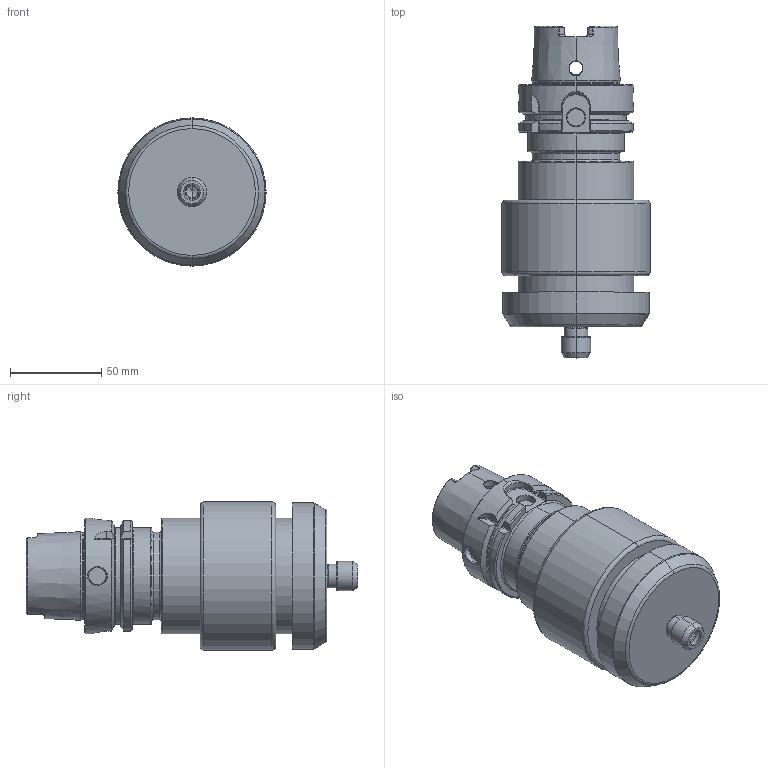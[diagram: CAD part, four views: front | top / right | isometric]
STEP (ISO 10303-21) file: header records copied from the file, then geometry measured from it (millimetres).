
FILE_DESCRIPTION (( 'STEP AP214' ), '1' );
FILE_NAME ('TJS-HPC -HSK A-63-Light.STEP', '2024-08-08T10:48:03', ( '' ), ( '' ), 'SwSTEP 2.0', 'SolidWorks 2024', '' );
FILE_SCHEMA (( 'AUTOMOTIVE_DESIGN' ));
Length unit declared in the file: millimetre
Products named in the file (1): TJS-HPC -HSK A-63-Light
Bounding box: 81 x 181.4 x 81 mm (x, y, z)
Volume: 510621.6 mm3; surface area: 58001.7 mm2
Topology: 1 solids, 1 shells, 268 faces, 681 edges, 423 vertices
Faces by surface type: cylinder 82, cone 68, plane 58, torus 57, bspline 3
Entity records: 10710 total; most frequent: CARTESIAN_POINT 4356, ORIENTED_EDGE 1354, DIRECTION 1334, EDGE_CURVE 677, AXIS2_PLACEMENT_3D 564, VERTEX_POINT 423, CIRCLE 298, EDGE_LOOP 284
